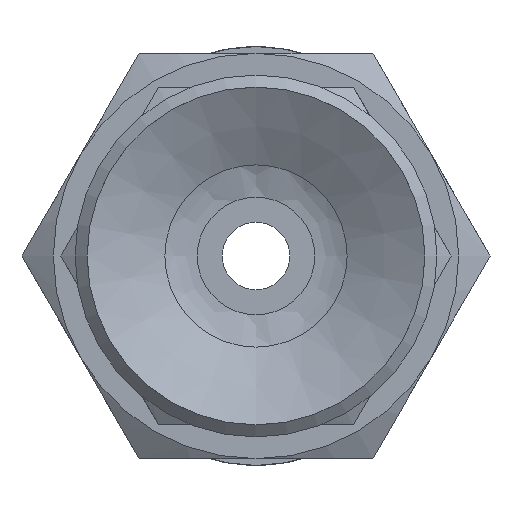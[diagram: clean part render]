
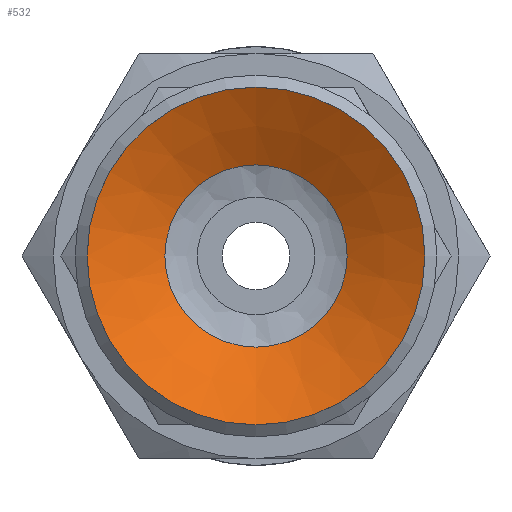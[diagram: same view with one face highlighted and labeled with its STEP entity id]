
A CAD part, front view. The second image highlights one B-rep face of the part: STEP entity #532.
In plain terms, the highlighted conical face has half-angle 61.39 degrees and reference radius 2.25 mm.
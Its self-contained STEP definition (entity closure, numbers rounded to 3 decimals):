
#532=ADVANCED_FACE('',(#788,#789),#790,.F.);
#788=FACE_BOUND('',#1143,.T.);
#789=FACE_OUTER_BOUND('',#1144,.T.);
#790=CONICAL_SURFACE('',#1145,2.25,1.071);
#1143=EDGE_LOOP('',(#2050));
#1144=EDGE_LOOP('',(#2051));
#1145=AXIS2_PLACEMENT_3D('',#2052,#2053,#2054);
#2050=ORIENTED_EDGE('',*,*,#2557,.T.);
#2051=ORIENTED_EDGE('',*,*,#2558,.T.);
#2052=CARTESIAN_POINT('',(0.0,1.5,0.0));
#2053=DIRECTION('',(-0.0,-1.0,0.));
#2054=DIRECTION('',(0.0,0.,-1.0));
#2557=EDGE_CURVE('',#2884,#2884,#2885,.T.);
#2558=EDGE_CURVE('',#2886,#2886,#2887,.T.);
#2884=VERTEX_POINT('',#3590);
#2885=CIRCLE('',#3591,2.698);
#2886=VERTEX_POINT('',#3592);
#2887=CIRCLE('',#3593,5.);
#3590=CARTESIAN_POINT('',(0.0,1.256,-2.698));
#3591=AXIS2_PLACEMENT_3D('',#4292,#4293,#4294);
#3592=CARTESIAN_POINT('',(0.0,0.,-5.));
#3593=AXIS2_PLACEMENT_3D('',#4295,#4296,#4297);
#4292=CARTESIAN_POINT('',(0.0,1.256,0.0));
#4293=DIRECTION('',(0.0,1.0,0.));
#4294=DIRECTION('',(0.0,0.,-1.0));
#4295=CARTESIAN_POINT('',(0.0,0.0,0.0));
#4296=DIRECTION('',(0.0,-1.0,0.));
#4297=DIRECTION('',(0.0,0.,-1.0));
